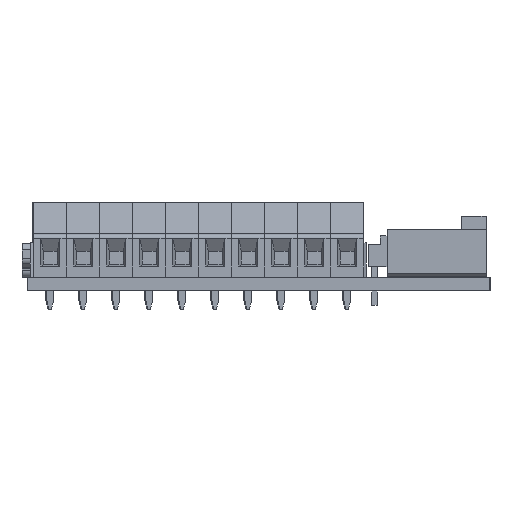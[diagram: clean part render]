
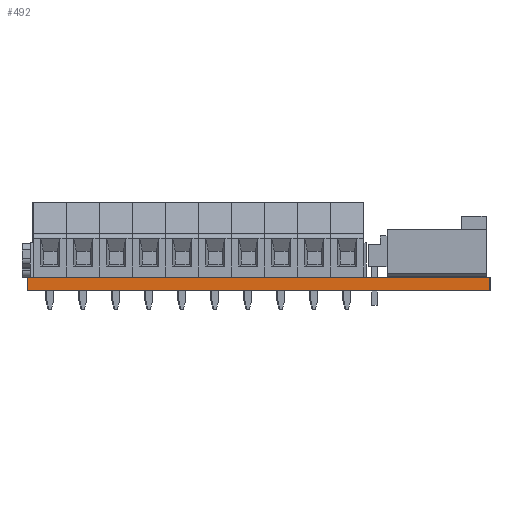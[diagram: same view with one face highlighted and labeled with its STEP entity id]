
A CAD part, left-side view. The second image highlights one B-rep face of the part: STEP entity #492.
In plain terms, the highlighted planar face has unit normal (-1, 0, 0).
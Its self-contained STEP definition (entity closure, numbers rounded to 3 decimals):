
#492 = ADVANCED_FACE('',(#493),#527,.T.);
#493 = FACE_BOUND('',#494,.T.);
#494 = EDGE_LOOP('',(#495,#505,#513,#521));
#495 = ORIENTED_EDGE('',*,*,#496,.T.);
#496 = EDGE_CURVE('',#497,#499,#501,.T.);
#497 = VERTEX_POINT('',#498);
#498 = CARTESIAN_POINT('',(0.,0.,-1.575));
#499 = VERTEX_POINT('',#500);
#500 = CARTESIAN_POINT('',(0.,0.,0.));
#501 = LINE('',#502,#503);
#502 = CARTESIAN_POINT('',(0.,0.,-1.575));
#503 = VECTOR('',#504,1.);
#504 = DIRECTION('',(0.,0.,1.));
#505 = ORIENTED_EDGE('',*,*,#506,.T.);
#506 = EDGE_CURVE('',#499,#507,#509,.T.);
#507 = VERTEX_POINT('',#508);
#508 = CARTESIAN_POINT('',(0.,53.34,0.));
#509 = LINE('',#510,#511);
#510 = CARTESIAN_POINT('',(0.,0.,0.));
#511 = VECTOR('',#512,1.);
#512 = DIRECTION('',(0.,1.,0.));
#513 = ORIENTED_EDGE('',*,*,#514,.F.);
#514 = EDGE_CURVE('',#515,#507,#517,.T.);
#515 = VERTEX_POINT('',#516);
#516 = CARTESIAN_POINT('',(0.,53.34,-1.575));
#517 = LINE('',#518,#519);
#518 = CARTESIAN_POINT('',(0.,53.34,-1.575));
#519 = VECTOR('',#520,1.);
#520 = DIRECTION('',(0.,0.,1.));
#521 = ORIENTED_EDGE('',*,*,#522,.F.);
#522 = EDGE_CURVE('',#497,#515,#523,.T.);
#523 = LINE('',#524,#525);
#524 = CARTESIAN_POINT('',(0.,0.,-1.575));
#525 = VECTOR('',#526,1.);
#526 = DIRECTION('',(0.,1.,0.));
#527 = PLANE('',#528);
#528 = AXIS2_PLACEMENT_3D('',#529,#530,#531);
#529 = CARTESIAN_POINT('',(0.,0.,-1.575));
#530 = DIRECTION('',(-1.,0.,0.));
#531 = DIRECTION('',(0.,1.,0.));
